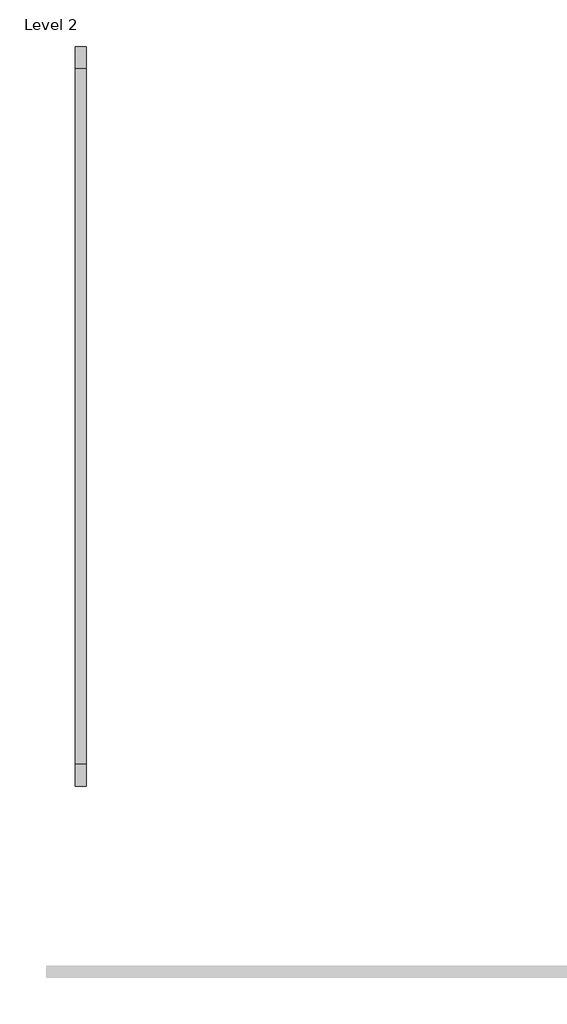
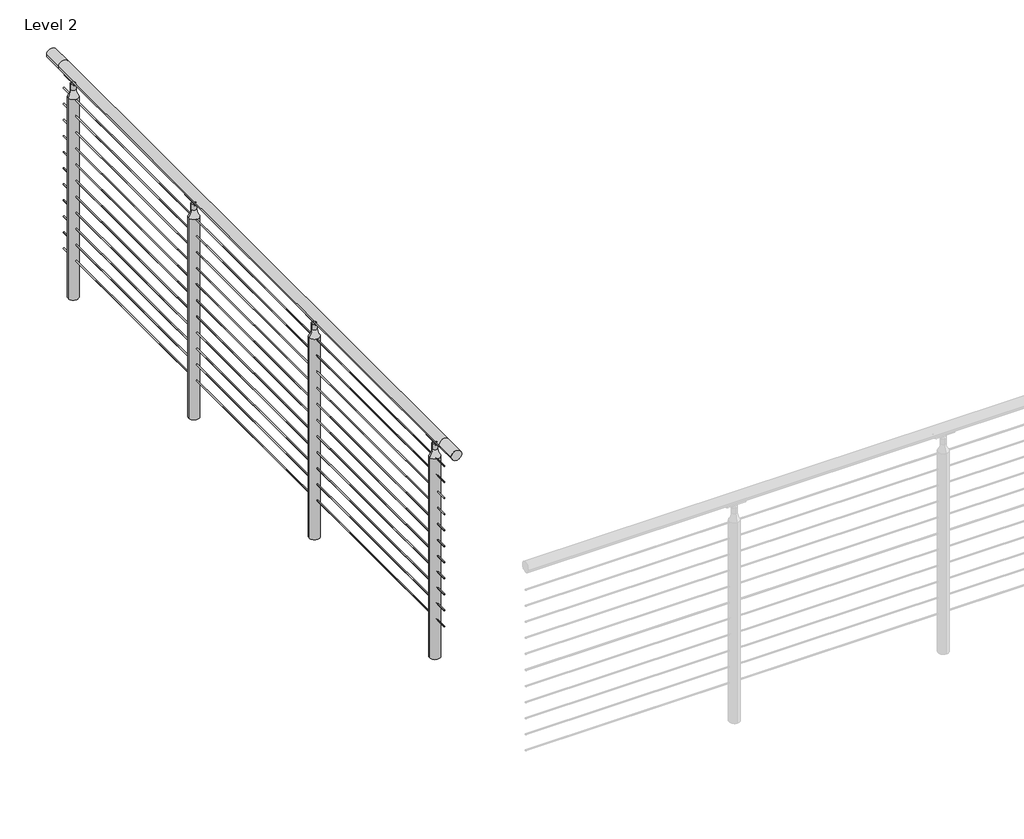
# One storey, part 16 of 21: 1 railing.
"""IFC4 building model written with IfcOpenShell, lengths in millimetres."""

from ifc_helpers import new_model, si_unit, point, frame, frame_2d, origin, place, context, project, spatial, polyline, circle_curve, ellipse_curve, trimmed, segment, composite_curve, outline, extrude, element, save
from ifc_brep_helpers import plane_surface, cylinder_surface, revolved_surface, advanced_brep

model = new_model("IFC4")

# Units and contexts
model_context = context("Model", 3, world=origin())
ifc_project = project(units=[si_unit("LENGTHUNIT", "METRE", prefix="MILLI")], contexts=[model_context])

# Site, building, storey
site = spatial("IfcSite", under=ifc_project)
building = spatial("IfcBuilding", under=site)
storey = spatial("IfcBuildingStorey", under=building, Name="Level 2", Elevation=3048.0)

# Railing
placement = place(None, origin())
element("IfcRailing", 1, ObjectType="VIVA-CIRCA-Cable-Weld Mount-Straight", at=placement, inside=storey, context=model_context, shape_type="SolidModel", body=[
    advanced_brep(
    [(41230.3572927, -51362.5040223, 4102.1), (41179.5572927, -51362.5040223, 4102.1), (41230.3572927, -51260.9040223, 4102.1), (41179.5572927, -51260.9040223, 4102.1), (41230.3572927, -48053.4426165, 4102.1), (41179.5572927, -48053.4426165, 4102.1), (41230.3572927, -47951.8426165, 4102.1), (41179.5572927, -47951.8426165, 4102.1)],
    [
        (0, 1, circle_curve(frame((41204.9572927, -51362.5040223, 4102.1), z_axis=(0.0, -1.0, 0.0), x_axis=(-1.0, 0.0, 0.0)), 25.4)),
        (1, 0, circle_curve(frame((41204.9572927, -51362.5040223, 4102.1), z_axis=(0.0, -1.0, 0.0), x_axis=(-1.0, 0.0, 0.0)), 25.4)),
        (0, 2),
        (2, 3, circle_curve(frame((41204.9572927, -51260.9040223, 4102.1), z_axis=(0.0, -1.0, 0.0), x_axis=(-1.0, 0.0, 0.0)), 25.4)),
        (3, 1),
        (3, 2, circle_curve(frame((41204.9572927, -51260.9040223, 4102.1), z_axis=(0.0, -1.0, 0.0), x_axis=(-1.0, 0.0, 0.0)), 25.4)),
        (2, 4),
        (4, 5, circle_curve(frame((41204.9572927, -48053.4426165, 4102.1), z_axis=(0.0, -1.0, 0.0), x_axis=(-1.0, 0.0, 0.0)), 25.4)),
        (5, 3),
        (5, 4, circle_curve(frame((41204.9572927, -48053.4426165, 4102.1), z_axis=(0.0, -1.0, 0.0), x_axis=(-1.0, 0.0, 0.0)), 25.4)),
        (6, 7, circle_curve(frame((41204.9572927, -47951.8426165, 4102.1), z_axis=(0.0, 1.0, 0.0), x_axis=(-1.0, 0.0, 0.0)), 25.4)),
        (7, 6, circle_curve(frame((41204.9572927, -47951.8426165, 4102.1), z_axis=(0.0, 1.0, 0.0), x_axis=(-1.0, 0.0, 0.0)), 25.4)),
        (4, 6),
        (7, 5),
    ],
    [
        plane_surface(frame((41204.9572927, -51362.5040223, 4127.5), z_axis=(0.0, -1.0, 0.0), x_axis=(0.0, 0.0, 1.0))),
        cylinder_surface(frame((41204.9572927, -51362.5040223, 4102.1), z_axis=(0.0, -1.0, 0.0), x_axis=(-1.0, 0.0, 0.0)), 25.4),
        cylinder_surface(frame((41204.9572927, -51260.9040223, 4102.1), z_axis=(0.0, -1.0, 0.0), x_axis=(-1.0, 0.0, 0.0)), 25.4),
        plane_surface(frame((41204.9572927, -47951.8426165, 4127.5), z_axis=(0.0, 1.0, 0.0), x_axis=(0.0, 0.0, 1.0))),
        cylinder_surface(frame((41204.9572927, -48053.4426165, 4102.1), z_axis=(0.0, -1.0, 0.0), x_axis=(-1.0, 0.0, 0.0)), 25.4),
    ],
    [
        (0, [[1, 2]]),
        (1, [[-1, 3, 4, 5]]),
        (1, [[-2, -5, 6, -3]]),
        (2, [[-4, 7, 8, 9]]),
        (2, [[-6, -9, 10, -7]]),
        (3, [[11, 12]]),
        (4, [[-8, 13, -12, 14]]),
        (4, [[-10, -14, -11, -13]]),
    ],
),
    extrude(outline(composite_curve([segment(trimmed(circle_curve(frame_2d((3985.4124, 41204.9572927)), 2.3876), [point((3985.4124, 41207.3448927))], [point((3985.4124, 41202.5696927))], False, "CARTESIAN"), True, "CONTINUOUS"), segment(trimmed(circle_curve(frame_2d((3985.4124, 41204.9572927)), 2.3876), [point((3985.4124, 41202.5696927))], [point((3985.4124, 41207.3448927))], False, "CARTESIAN"), True, "CONTINUOUS")], self_intersect=False)), frame((0.0, -51260.9040223, 0.0), z_axis=(0.0, 1.0, 0.0), x_axis=(0.0, 0.0, 1.0)), (0.0, 0.0, 1.0), 3207.4614057),
    extrude(outline(composite_curve([segment(trimmed(circle_curve(frame_2d((3902.8624, 41204.9572927)), 2.3876), [point((3902.8624, 41207.3448927))], [point((3902.8624, 41202.5696927))], False, "CARTESIAN"), True, "CONTINUOUS"), segment(trimmed(circle_curve(frame_2d((3902.8624, 41204.9572927)), 2.3876), [point((3902.8624, 41202.5696927))], [point((3902.8624, 41207.3448927))], False, "CARTESIAN"), True, "CONTINUOUS")], self_intersect=False)), frame((0.0, -51260.9040223, 0.0), z_axis=(0.0, 1.0, 0.0), x_axis=(0.0, 0.0, 1.0)), (0.0, 0.0, 1.0), 3207.4614057),
    extrude(outline(composite_curve([segment(trimmed(circle_curve(frame_2d((3820.3124, 41204.9572927)), 2.3876), [point((3820.3124, 41207.3448927))], [point((3820.3124, 41202.5696927))], False, "CARTESIAN"), True, "CONTINUOUS"), segment(trimmed(circle_curve(frame_2d((3820.3124, 41204.9572927)), 2.3876), [point((3820.3124, 41202.5696927))], [point((3820.3124, 41207.3448927))], False, "CARTESIAN"), True, "CONTINUOUS")], self_intersect=False)), frame((0.0, -51260.9040223, 0.0), z_axis=(0.0, 1.0, 0.0), x_axis=(0.0, 0.0, 1.0)), (0.0, 0.0, 1.0), 3207.4614057),
    extrude(outline(composite_curve([segment(trimmed(circle_curve(frame_2d((3737.7624, 41204.9572927)), 2.3876), [point((3737.7624, 41207.3448927))], [point((3737.7624, 41202.5696927))], False, "CARTESIAN"), True, "CONTINUOUS"), segment(trimmed(circle_curve(frame_2d((3737.7624, 41204.9572927)), 2.3876), [point((3737.7624, 41202.5696927))], [point((3737.7624, 41207.3448927))], False, "CARTESIAN"), True, "CONTINUOUS")], self_intersect=False)), frame((0.0, -51260.9040223, 0.0), z_axis=(0.0, 1.0, 0.0), x_axis=(0.0, 0.0, 1.0)), (0.0, 0.0, 1.0), 3207.4614057),
    extrude(outline(composite_curve([segment(trimmed(circle_curve(frame_2d((3655.2124, 41204.9572927)), 2.3876), [point((3655.2124, 41207.3448927))], [point((3655.2124, 41202.5696927))], False, "CARTESIAN"), True, "CONTINUOUS"), segment(trimmed(circle_curve(frame_2d((3655.2124, 41204.9572927)), 2.3876), [point((3655.2124, 41202.5696927))], [point((3655.2124, 41207.3448927))], False, "CARTESIAN"), True, "CONTINUOUS")], self_intersect=False)), frame((0.0, -51260.9040223, 0.0), z_axis=(0.0, 1.0, 0.0), x_axis=(0.0, 0.0, 1.0)), (0.0, 0.0, 1.0), 3207.4614057),
    extrude(outline(composite_curve([segment(trimmed(circle_curve(frame_2d((3572.6624, 41204.9572927)), 2.3876), [point((3572.6624, 41207.3448927))], [point((3572.6624, 41202.5696927))], False, "CARTESIAN"), True, "CONTINUOUS"), segment(trimmed(circle_curve(frame_2d((3572.6624, 41204.9572927)), 2.3876), [point((3572.6624, 41202.5696927))], [point((3572.6624, 41207.3448927))], False, "CARTESIAN"), True, "CONTINUOUS")], self_intersect=False)), frame((0.0, -51260.9040223, 0.0), z_axis=(0.0, 1.0, 0.0), x_axis=(0.0, 0.0, 1.0)), (0.0, 0.0, 1.0), 3207.4614057),
    extrude(outline(composite_curve([segment(trimmed(circle_curve(frame_2d((3490.1124, 41204.9572927)), 2.3876), [point((3490.1124, 41207.3448927))], [point((3490.1124, 41202.5696927))], False, "CARTESIAN"), True, "CONTINUOUS"), segment(trimmed(circle_curve(frame_2d((3490.1124, 41204.9572927)), 2.3876), [point((3490.1124, 41202.5696927))], [point((3490.1124, 41207.3448927))], False, "CARTESIAN"), True, "CONTINUOUS")], self_intersect=False)), frame((0.0, -51260.9040223, 0.0), z_axis=(0.0, 1.0, 0.0), x_axis=(0.0, 0.0, 1.0)), (0.0, 0.0, 1.0), 3207.4614057),
    extrude(outline(composite_curve([segment(trimmed(circle_curve(frame_2d((3407.5624, 41204.9572927)), 2.3876), [point((3407.5624, 41207.3448927))], [point((3407.5624, 41202.5696927))], False, "CARTESIAN"), True, "CONTINUOUS"), segment(trimmed(circle_curve(frame_2d((3407.5624, 41204.9572927)), 2.3876), [point((3407.5624, 41202.5696927))], [point((3407.5624, 41207.3448927))], False, "CARTESIAN"), True, "CONTINUOUS")], self_intersect=False)), frame((0.0, -51260.9040223, 0.0), z_axis=(0.0, 1.0, 0.0), x_axis=(0.0, 0.0, 1.0)), (0.0, 0.0, 1.0), 3207.4614057),
    extrude(outline(composite_curve([segment(trimmed(circle_curve(frame_2d((3325.0124, 41204.9572927)), 2.3876), [point((3325.0124, 41207.3448927))], [point((3325.0124, 41202.5696927))], False, "CARTESIAN"), True, "CONTINUOUS"), segment(trimmed(circle_curve(frame_2d((3325.0124, 41204.9572927)), 2.3876), [point((3325.0124, 41202.5696927))], [point((3325.0124, 41207.3448927))], False, "CARTESIAN"), True, "CONTINUOUS")], self_intersect=False)), frame((0.0, -51260.9040223, 0.0), z_axis=(0.0, 1.0, 0.0), x_axis=(0.0, 0.0, 1.0)), (0.0, 0.0, 1.0), 3207.4614057),
    extrude(outline(composite_curve([segment(trimmed(circle_curve(frame_2d((3242.4624, 41204.9572927)), 2.3876), [point((3242.4624, 41207.3448927))], [point((3242.4624, 41202.5696927))], False, "CARTESIAN"), True, "CONTINUOUS"), segment(trimmed(circle_curve(frame_2d((3242.4624, 41204.9572927)), 2.3876), [point((3242.4624, 41202.5696927))], [point((3242.4624, 41207.3448927))], False, "CARTESIAN"), True, "CONTINUOUS")], self_intersect=False)), frame((0.0, -51260.9040223, 0.0), z_axis=(0.0, 1.0, 0.0), x_axis=(0.0, 0.0, 1.0)), (0.0, 0.0, 1.0), 3207.4614057),
    extrude(outline(composite_curve([segment(trimmed(circle_curve(frame_2d((3159.9124, 41204.9572927)), 2.3876), [point((3159.9124, 41207.3448927))], [point((3159.9124, 41202.5696927))], False, "CARTESIAN"), True, "CONTINUOUS"), segment(trimmed(circle_curve(frame_2d((3159.9124, 41204.9572927)), 2.3876), [point((3159.9124, 41202.5696927))], [point((3159.9124, 41207.3448927))], False, "CARTESIAN"), True, "CONTINUOUS")], self_intersect=False)), frame((0.0, -51260.9040223, 0.0), z_axis=(0.0, 1.0, 0.0), x_axis=(0.0, 0.0, 1.0)), (0.0, 0.0, 1.0), 3207.4614057),
    extrude(outline(composite_curve([segment(trimmed(circle_curve(frame_2d((4078.7923545, 41190.9426605)), 2.9558141), [point((4081.3106679, 41192.4902182))], [point((4076.9214354, 41188.6543207))], False, "CARTESIAN"), True, "CONTINUOUS"), segment(trimmed(circle_curve(frame_2d((4104.1881188, 41204.920558)), 31.75), [point((4076.9214354, 41188.6543207))], [point((4076.3406769, 41220.171213))], False, "CARTESIAN"), True, "CONTINUOUS"), segment(trimmed(circle_curve(frame_2d((4078.7132623, 41218.6939079)), 2.7949225), [point((4076.3406769, 41220.171213))], [point((4081.2157471, 41217.4492548))], False, "CARTESIAN"), True, "CONTINUOUS"), segment(trimmed(circle_curve(frame_2d((4103.4254922, 41205.0540211)), 25.4345159), [point((4081.2157471, 41217.4492548))], [point((4081.3106679, 41192.4902182))], True, "CARTESIAN"), True, "CONTINUOUS")], self_intersect=False)), frame((0.0, -48178.0138444, 0.0), z_axis=(0.0, 1.0, 0.0), x_axis=(0.0, 0.0, 1.0)), (0.0, 0.0, 1.0), 90.4748),
    advanced_brep(
    [(41207.4972927, -48105.7085295, 4072.6506908), (41207.4972927, -48159.8443593, 4072.6506908), (41207.4972927, -48145.4764444, 4058.282776), (41207.4972927, -48120.0764444, 4058.282776), (41202.4172927, -48105.7085295, 4072.6506908), (41202.4172927, -48120.0764444, 4058.282776), (41202.4172927, -48145.4764444, 4058.282776), (41202.4172927, -48159.8443593, 4072.6506908)],
    [
        (0, 1),
        (1, 2, circle_curve(frame((41207.4972927, -48159.8443593, 4058.282776), z_axis=(-1.0, 0.0, 0.0), x_axis=(0.0, -1.0, 0.0)), 14.3679149)),
        (2, 3, circle_curve(frame((41207.4972927, -48132.7764444, 4058.282776), z_axis=(1.0, 0.0, 0.0), x_axis=(0.0, -1.0, 0.0)), 12.7)),
        (3, 0, circle_curve(frame((41207.4972927, -48105.7085295, 4058.282776), z_axis=(-1.0, 0.0, 0.0), x_axis=(0.0, -1.0, 0.0)), 14.3679149)),
        (4, 5, circle_curve(frame((41202.4172927, -48105.7085295, 4058.282776), z_axis=(1.0, 0.0, 0.0), x_axis=(0.0, -1.0, 0.0)), 14.3679149)),
        (5, 6, circle_curve(frame((41202.4172927, -48132.7764444, 4058.282776), z_axis=(-1.0, 0.0, 0.0), x_axis=(0.0, -1.0, 0.0)), 12.7)),
        (6, 7, circle_curve(frame((41202.4172927, -48159.8443593, 4058.282776), z_axis=(1.0, 0.0, 0.0), x_axis=(0.0, -1.0, 0.0)), 14.3679149)),
        (7, 4),
        (3, 5),
        (4, 0),
        (2, 6),
        (1, 7),
    ],
    [
        plane_surface(frame((41207.4972927, -48120.0764444, 4058.282776), z_axis=(1.0, 0.0, 0.0), x_axis=(0.0, 0.0, -1.0))),
        plane_surface(frame((41202.4172927, -48120.0764444, 4058.282776), z_axis=(-1.0, 0.0, 0.0), x_axis=(0.0, 0.0, 1.0))),
        revolved_surface(polyline([(41202.4172927, -48120.0764444, 4058.282776), (41207.4972927, -48120.0764444, 4058.282776)]), (41202.4172927, -48105.7085295, 4058.282776), (-1.0, 0.0, 0.0)),
        cylinder_surface(frame((41202.4172927, -48132.7764444, 4058.282776), z_axis=(1.0, 0.0, 0.0), x_axis=(0.0, -1.0, 0.0)), 12.7),
        revolved_surface(polyline([(41202.4172927, -48174.2122742, 4058.282776), (41207.4972927, -48174.2122742, 4058.282776)]), (41202.4172927, -48159.8443593, 4058.282776), (-1.0, 0.0, 0.0)),
        plane_surface(frame((41207.4972927, -48159.8443593, 4072.6506908), z_axis=(0.0, 0.0, 1.0), x_axis=(-1.0, 0.0, 0.0))),
    ],
    [
        (0, [[1, 2, 3, 4]]),
        (1, [[5, 6, 7, 8]]),
        (2, [[9, -5, 10, -4]]),
        (3, [[11, -6, -9, -3]]),
        (4, [[12, -7, -11, -2]]),
        (5, [[-10, -8, -12, -1]]),
    ],
),
    advanced_brep(
    [(41179.5578949, -48132.7764444, 3989.1347854), (41179.5578949, -48132.7764444, 2959.1), (41230.3566905, -48132.7764444, 2959.1), (41230.3566905, -48132.7764444, 3989.1347854), (41192.2193241, -48132.7764444, 4027.3486202), (41217.6952612, -48132.7764444, 4027.3486202), (41192.2193241, -48132.7764444, 4056.5779599), (41217.6952612, -48132.7764444, 4056.5779599), (41204.9572927, -48132.7764444, 4063.238668), (41204.9572927, -48132.7764444, 2959.1)],
    [
        (0, 1),
        (1, 2, circle_curve(frame((41204.9572927, -48132.7764444, 2959.1), z_axis=(0.0, 0.0, 1.0), x_axis=(1.0, 0.0, 0.0)), 25.3993978)),
        (2, 3),
        (3, 0, circle_curve(frame((41204.9572927, -48132.7764444, 3989.1347854), z_axis=(0.0, 0.0, -1.0), x_axis=(1.0, 0.0, 0.0)), 25.3993978)),
        (2, 1, circle_curve(frame((41204.9572927, -48132.7764444, 2959.1), z_axis=(0.0, 0.0, 1.0), x_axis=(1.0, 0.0, 0.0)), 25.3993978)),
        (0, 3, circle_curve(frame((41204.9572927, -48132.7764444, 3989.1347854), z_axis=(0.0, 0.0, -1.0), x_axis=(1.0, 0.0, 0.0)), 25.3993978)),
        (4, 0, circle_curve(frame((41128.2214558, -48132.7764444, 4027.3486202), z_axis=(0.0, 1.0, 0.0), x_axis=(-1.0, 0.0, 0.0)), 63.9978683)),
        (3, 5, circle_curve(frame((41281.6931295, -48132.7764444, 4027.3486202), z_axis=(0.0, 1.0, 0.0), x_axis=(1.0, 0.0, 0.0)), 63.9978683)),
        (5, 4, circle_curve(frame((41204.9572927, -48132.7764444, 4027.3486202), z_axis=(0.0, 0.0, -1.0), x_axis=(1.0, 0.0, 0.0)), 12.7379685)),
        (4, 5, circle_curve(frame((41204.9572927, -48132.7764444, 4027.3486202), z_axis=(0.0, 0.0, -1.0), x_axis=(1.0, 0.0, 0.0)), 12.7379685)),
        (6, 4),
        (5, 7),
        (7, 6, circle_curve(frame((41204.9572927, -48132.7764444, 4056.5779599), z_axis=(0.0, 0.0, -1.0), x_axis=(1.0, 0.0, 0.0)), 12.7379685)),
        (6, 7, circle_curve(frame((41204.9572927, -48132.7764444, 4056.5779599), z_axis=(0.0, 0.0, -1.0), x_axis=(1.0, 0.0, 0.0)), 12.7379685)),
        (8, 6, circle_curve(frame((41204.9572927, -48132.7764444, 4047.7282394), z_axis=(0.0, -1.0, 0.0), x_axis=(-1.0, 0.0, 0.0)), 15.5104286)),
        (7, 8, circle_curve(frame((41204.9572927, -48132.7764444, 4047.7282394), z_axis=(0.0, -1.0, 0.0), x_axis=(1.0, 0.0, 0.0)), 15.5104286)),
        (1, 9),
        (9, 2),
    ],
    [
        cylinder_surface(frame((41204.9572927, -48132.7764444, 4152.9), z_axis=(0.0, 0.0, 1.0), x_axis=(1.0, 0.0, 0.0)), 25.3993978),
        revolved_surface(trimmed(ellipse_curve(frame((41281.6931295, -48132.7764444, 4027.3486202), z_axis=(0.0, 1.0, 0.0), x_axis=(1.0, 0.0, 0.0)), 63.9978683, 63.9978683), [point((41230.3566905, -48132.7764444, 3989.1347854))], [point((41217.6952612, -48132.7764444, 4027.3486202))], True, "CARTESIAN"), (41204.9572927, -48132.7764444, 4152.9), (0.0, 0.0, 1.0)),
        cylinder_surface(frame((41204.9572927, -48132.7764444, 4152.9), z_axis=(0.0, 0.0, 1.0), x_axis=(1.0, 0.0, 0.0)), 12.7379685),
        revolved_surface(trimmed(ellipse_curve(frame((41204.9572927, -48132.7764444, 4047.7282394), z_axis=(0.0, -1.0, 0.0), x_axis=(1.0, 0.0, 0.0)), 15.5104286, 15.5104286), [point((41217.6952612, -48132.7764444, 4056.5779599))], [point((41204.9572927, -48132.7764444, 4063.238668))], True, "CARTESIAN"), (41204.9572927, -48132.7764444, 4152.9), (0.0, 0.0, 1.0)),
        plane_surface(frame((41204.9572927, -48132.7764444, 2959.1), z_axis=(0.0, 0.0, -1.0), x_axis=(1.0, 0.0, 0.0))),
    ],
    [
        (0, [[1, 2, 3, 4]]),
        (0, [[-3, 5, -1, 6]]),
        (1, [[7, -4, 8, 9]]),
        (1, [[-8, -6, -7, 10]]),
        (2, [[11, -9, 12, 13]]),
        (2, [[-12, -10, -11, 14]]),
        (3, [[15, -13, 16]]),
        (3, [[-16, -14, -15]]),
        (4, [[17, 18, -2]]),
        (4, [[-18, -17, -5]]),
    ],
),
    extrude(outline(composite_curve([segment(trimmed(circle_curve(frame_2d((4078.7923545, 41190.9426605)), 2.9558141), [point((4081.3106679, 41192.4902182))], [point((4076.9214354, 41188.6543207))], False, "CARTESIAN"), True, "CONTINUOUS"), segment(trimmed(circle_curve(frame_2d((4104.1881188, 41204.920558)), 31.75), [point((4076.9214354, 41188.6543207))], [point((4076.3406769, 41220.171213))], False, "CARTESIAN"), True, "CONTINUOUS"), segment(trimmed(circle_curve(frame_2d((4078.7132623, 41218.6939079)), 2.7949225), [point((4076.3406769, 41220.171213))], [point((4081.2157471, 41217.4492548))], False, "CARTESIAN"), True, "CONTINUOUS"), segment(trimmed(circle_curve(frame_2d((4103.4254922, 41205.0540211)), 25.4345159), [point((4081.2157471, 41217.4492548))], [point((4081.3106679, 41192.4902182))], True, "CARTESIAN"), True, "CONTINUOUS")], self_intersect=False)), frame((0.0, -49194.0138444, 0.0), z_axis=(0.0, 1.0, 0.0), x_axis=(0.0, 0.0, 1.0)), (0.0, 0.0, 1.0), 90.4748),
    advanced_brep(
    [(41207.4972927, -49121.7085295, 4072.6506908), (41207.4972927, -49175.8443593, 4072.6506908), (41207.4972927, -49161.4764444, 4058.282776), (41207.4972927, -49136.0764444, 4058.282776), (41202.4172927, -49121.7085295, 4072.6506908), (41202.4172927, -49136.0764444, 4058.282776), (41202.4172927, -49161.4764444, 4058.282776), (41202.4172927, -49175.8443593, 4072.6506908)],
    [
        (0, 1),
        (1, 2, circle_curve(frame((41207.4972927, -49175.8443593, 4058.282776), z_axis=(-1.0, 0.0, 0.0), x_axis=(0.0, -1.0, 0.0)), 14.3679149)),
        (2, 3, circle_curve(frame((41207.4972927, -49148.7764444, 4058.282776), z_axis=(1.0, 0.0, 0.0), x_axis=(0.0, -1.0, 0.0)), 12.7)),
        (3, 0, circle_curve(frame((41207.4972927, -49121.7085295, 4058.282776), z_axis=(-1.0, 0.0, 0.0), x_axis=(0.0, -1.0, 0.0)), 14.3679149)),
        (4, 5, circle_curve(frame((41202.4172927, -49121.7085295, 4058.282776), z_axis=(1.0, 0.0, 0.0), x_axis=(0.0, -1.0, 0.0)), 14.3679149)),
        (5, 6, circle_curve(frame((41202.4172927, -49148.7764444, 4058.282776), z_axis=(-1.0, 0.0, 0.0), x_axis=(0.0, -1.0, 0.0)), 12.7)),
        (6, 7, circle_curve(frame((41202.4172927, -49175.8443593, 4058.282776), z_axis=(1.0, 0.0, 0.0), x_axis=(0.0, -1.0, 0.0)), 14.3679149)),
        (7, 4),
        (3, 5),
        (4, 0),
        (2, 6),
        (1, 7),
    ],
    [
        plane_surface(frame((41207.4972927, -49136.0764444, 4058.282776), z_axis=(1.0, 0.0, 0.0), x_axis=(0.0, 0.0, -1.0))),
        plane_surface(frame((41202.4172927, -49136.0764444, 4058.282776), z_axis=(-1.0, 0.0, 0.0), x_axis=(0.0, 0.0, 1.0))),
        revolved_surface(polyline([(41202.4172927, -49136.0764444, 4058.282776), (41207.4972927, -49136.0764444, 4058.282776)]), (41202.4172927, -49121.7085295, 4058.282776), (-1.0, 0.0, 0.0)),
        cylinder_surface(frame((41202.4172927, -49148.7764444, 4058.282776), z_axis=(1.0, 0.0, 0.0), x_axis=(0.0, -1.0, 0.0)), 12.7),
        revolved_surface(polyline([(41202.4172927, -49190.2122742, 4058.282776), (41207.4972927, -49190.2122742, 4058.282776)]), (41202.4172927, -49175.8443593, 4058.282776), (-1.0, 0.0, 0.0)),
        plane_surface(frame((41207.4972927, -49175.8443593, 4072.6506908), z_axis=(0.0, 0.0, 1.0), x_axis=(-1.0, 0.0, 0.0))),
    ],
    [
        (0, [[1, 2, 3, 4]]),
        (1, [[5, 6, 7, 8]]),
        (2, [[9, -5, 10, -4]]),
        (3, [[11, -6, -9, -3]]),
        (4, [[12, -7, -11, -2]]),
        (5, [[-10, -8, -12, -1]]),
    ],
),
    advanced_brep(
    [(41179.5578949, -49148.7764444, 3989.1347854), (41179.5578949, -49148.7764444, 2959.1), (41230.3566905, -49148.7764444, 2959.1), (41230.3566905, -49148.7764444, 3989.1347854), (41192.2193241, -49148.7764444, 4027.3486202), (41217.6952612, -49148.7764444, 4027.3486202), (41192.2193241, -49148.7764444, 4056.5779599), (41217.6952612, -49148.7764444, 4056.5779599), (41204.9572927, -49148.7764444, 4063.238668), (41204.9572927, -49148.7764444, 2959.1)],
    [
        (0, 1),
        (1, 2, circle_curve(frame((41204.9572927, -49148.7764444, 2959.1), z_axis=(0.0, 0.0, 1.0), x_axis=(1.0, 0.0, 0.0)), 25.3993978)),
        (2, 3),
        (3, 0, circle_curve(frame((41204.9572927, -49148.7764444, 3989.1347854), z_axis=(0.0, 0.0, -1.0), x_axis=(1.0, 0.0, 0.0)), 25.3993978)),
        (2, 1, circle_curve(frame((41204.9572927, -49148.7764444, 2959.1), z_axis=(0.0, 0.0, 1.0), x_axis=(1.0, 0.0, 0.0)), 25.3993978)),
        (0, 3, circle_curve(frame((41204.9572927, -49148.7764444, 3989.1347854), z_axis=(0.0, 0.0, -1.0), x_axis=(1.0, 0.0, 0.0)), 25.3993978)),
        (4, 0, circle_curve(frame((41128.2214558, -49148.7764444, 4027.3486202), z_axis=(0.0, 1.0, 0.0), x_axis=(-1.0, 0.0, 0.0)), 63.9978683)),
        (3, 5, circle_curve(frame((41281.6931295, -49148.7764444, 4027.3486202), z_axis=(0.0, 1.0, 0.0), x_axis=(1.0, 0.0, 0.0)), 63.9978683)),
        (5, 4, circle_curve(frame((41204.9572927, -49148.7764444, 4027.3486202), z_axis=(0.0, 0.0, -1.0), x_axis=(1.0, 0.0, 0.0)), 12.7379685)),
        (4, 5, circle_curve(frame((41204.9572927, -49148.7764444, 4027.3486202), z_axis=(0.0, 0.0, -1.0), x_axis=(1.0, 0.0, 0.0)), 12.7379685)),
        (6, 4),
        (5, 7),
        (7, 6, circle_curve(frame((41204.9572927, -49148.7764444, 4056.5779599), z_axis=(0.0, 0.0, -1.0), x_axis=(1.0, 0.0, 0.0)), 12.7379685)),
        (6, 7, circle_curve(frame((41204.9572927, -49148.7764444, 4056.5779599), z_axis=(0.0, 0.0, -1.0), x_axis=(1.0, 0.0, 0.0)), 12.7379685)),
        (8, 6, circle_curve(frame((41204.9572927, -49148.7764444, 4047.7282394), z_axis=(0.0, -1.0, 0.0), x_axis=(-1.0, 0.0, 0.0)), 15.5104286)),
        (7, 8, circle_curve(frame((41204.9572927, -49148.7764444, 4047.7282394), z_axis=(0.0, -1.0, 0.0), x_axis=(1.0, 0.0, 0.0)), 15.5104286)),
        (1, 9),
        (9, 2),
    ],
    [
        cylinder_surface(frame((41204.9572927, -49148.7764444, 4152.9), z_axis=(0.0, 0.0, 1.0), x_axis=(1.0, 0.0, 0.0)), 25.3993978),
        revolved_surface(trimmed(ellipse_curve(frame((41281.6931295, -49148.7764444, 4027.3486202), z_axis=(0.0, 1.0, 0.0), x_axis=(1.0, 0.0, 0.0)), 63.9978683, 63.9978683), [point((41230.3566905, -49148.7764444, 3989.1347854))], [point((41217.6952612, -49148.7764444, 4027.3486202))], True, "CARTESIAN"), (41204.9572927, -49148.7764444, 4152.9), (0.0, 0.0, 1.0)),
        cylinder_surface(frame((41204.9572927, -49148.7764444, 4152.9), z_axis=(0.0, 0.0, 1.0), x_axis=(1.0, 0.0, 0.0)), 12.7379685),
        revolved_surface(trimmed(ellipse_curve(frame((41204.9572927, -49148.7764444, 4047.7282394), z_axis=(0.0, -1.0, 0.0), x_axis=(1.0, 0.0, 0.0)), 15.5104286, 15.5104286), [point((41217.6952612, -49148.7764444, 4056.5779599))], [point((41204.9572927, -49148.7764444, 4063.238668))], True, "CARTESIAN"), (41204.9572927, -49148.7764444, 4152.9), (0.0, 0.0, 1.0)),
        plane_surface(frame((41204.9572927, -49148.7764444, 2959.1), z_axis=(0.0, 0.0, -1.0), x_axis=(1.0, 0.0, 0.0))),
    ],
    [
        (0, [[1, 2, 3, 4]]),
        (0, [[-3, 5, -1, 6]]),
        (1, [[7, -4, 8, 9]]),
        (1, [[-8, -6, -7, 10]]),
        (2, [[11, -9, 12, 13]]),
        (2, [[-12, -10, -11, 14]]),
        (3, [[15, -13, 16]]),
        (3, [[-16, -14, -15]]),
        (4, [[17, 18, -2]]),
        (4, [[-18, -17, -5]]),
    ],
),
    extrude(outline(composite_curve([segment(trimmed(circle_curve(frame_2d((4078.7923545, 41190.9426605)), 2.9558141), [point((4081.3106679, 41192.4902182))], [point((4076.9214354, 41188.6543207))], False, "CARTESIAN"), True, "CONTINUOUS"), segment(trimmed(circle_curve(frame_2d((4104.1881188, 41204.920558)), 31.75), [point((4076.9214354, 41188.6543207))], [point((4076.3406769, 41220.171213))], False, "CARTESIAN"), True, "CONTINUOUS"), segment(trimmed(circle_curve(frame_2d((4078.7132623, 41218.6939079)), 2.7949225), [point((4076.3406769, 41220.171213))], [point((4081.2157471, 41217.4492548))], False, "CARTESIAN"), True, "CONTINUOUS"), segment(trimmed(circle_curve(frame_2d((4103.4254922, 41205.0540211)), 25.4345159), [point((4081.2157471, 41217.4492548))], [point((4081.3106679, 41192.4902182))], True, "CARTESIAN"), True, "CONTINUOUS")], self_intersect=False)), frame((0.0, -50210.0138444, 0.0), z_axis=(0.0, 1.0, 0.0), x_axis=(0.0, 0.0, 1.0)), (0.0, 0.0, 1.0), 90.4748),
    advanced_brep(
    [(41207.4972927, -50137.7085295, 4072.6506908), (41207.4972927, -50191.8443593, 4072.6506908), (41207.4972927, -50177.4764444, 4058.282776), (41207.4972927, -50152.0764444, 4058.282776), (41202.4172927, -50137.7085295, 4072.6506908), (41202.4172927, -50152.0764444, 4058.282776), (41202.4172927, -50177.4764444, 4058.282776), (41202.4172927, -50191.8443593, 4072.6506908)],
    [
        (0, 1),
        (1, 2, circle_curve(frame((41207.4972927, -50191.8443593, 4058.282776), z_axis=(-1.0, 0.0, 0.0), x_axis=(0.0, -1.0, 0.0)), 14.3679149)),
        (2, 3, circle_curve(frame((41207.4972927, -50164.7764444, 4058.282776), z_axis=(1.0, 0.0, 0.0), x_axis=(0.0, -1.0, 0.0)), 12.7)),
        (3, 0, circle_curve(frame((41207.4972927, -50137.7085295, 4058.282776), z_axis=(-1.0, 0.0, 0.0), x_axis=(0.0, -1.0, 0.0)), 14.3679149)),
        (4, 5, circle_curve(frame((41202.4172927, -50137.7085295, 4058.282776), z_axis=(1.0, 0.0, 0.0), x_axis=(0.0, -1.0, 0.0)), 14.3679149)),
        (5, 6, circle_curve(frame((41202.4172927, -50164.7764444, 4058.282776), z_axis=(-1.0, 0.0, 0.0), x_axis=(0.0, -1.0, 0.0)), 12.7)),
        (6, 7, circle_curve(frame((41202.4172927, -50191.8443593, 4058.282776), z_axis=(1.0, 0.0, 0.0), x_axis=(0.0, -1.0, 0.0)), 14.3679149)),
        (7, 4),
        (3, 5),
        (4, 0),
        (2, 6),
        (1, 7),
    ],
    [
        plane_surface(frame((41207.4972927, -50152.0764444, 4058.282776), z_axis=(1.0, 0.0, 0.0), x_axis=(0.0, 0.0, -1.0))),
        plane_surface(frame((41202.4172927, -50152.0764444, 4058.282776), z_axis=(-1.0, 0.0, 0.0), x_axis=(0.0, 0.0, 1.0))),
        revolved_surface(polyline([(41202.4172927, -50152.0764444, 4058.282776), (41207.4972927, -50152.0764444, 4058.282776)]), (41202.4172927, -50137.7085295, 4058.282776), (-1.0, 0.0, 0.0)),
        cylinder_surface(frame((41202.4172927, -50164.7764444, 4058.282776), z_axis=(1.0, 0.0, 0.0), x_axis=(0.0, -1.0, 0.0)), 12.7),
        revolved_surface(polyline([(41202.4172927, -50206.2122742, 4058.282776), (41207.4972927, -50206.2122742, 4058.282776)]), (41202.4172927, -50191.8443593, 4058.282776), (-1.0, 0.0, 0.0)),
        plane_surface(frame((41207.4972927, -50191.8443593, 4072.6506908), z_axis=(0.0, 0.0, 1.0), x_axis=(-1.0, 0.0, 0.0))),
    ],
    [
        (0, [[1, 2, 3, 4]]),
        (1, [[5, 6, 7, 8]]),
        (2, [[9, -5, 10, -4]]),
        (3, [[11, -6, -9, -3]]),
        (4, [[12, -7, -11, -2]]),
        (5, [[-10, -8, -12, -1]]),
    ],
),
    advanced_brep(
    [(41179.5578949, -50164.7764444, 3989.1347854), (41179.5578949, -50164.7764444, 2959.1), (41230.3566905, -50164.7764444, 2959.1), (41230.3566905, -50164.7764444, 3989.1347854), (41192.2193241, -50164.7764444, 4027.3486202), (41217.6952612, -50164.7764444, 4027.3486202), (41192.2193241, -50164.7764444, 4056.5779599), (41217.6952612, -50164.7764444, 4056.5779599), (41204.9572927, -50164.7764444, 4063.238668), (41204.9572927, -50164.7764444, 2959.1)],
    [
        (0, 1),
        (1, 2, circle_curve(frame((41204.9572927, -50164.7764444, 2959.1), z_axis=(0.0, 0.0, 1.0), x_axis=(1.0, 0.0, 0.0)), 25.3993978)),
        (2, 3),
        (3, 0, circle_curve(frame((41204.9572927, -50164.7764444, 3989.1347854), z_axis=(0.0, 0.0, -1.0), x_axis=(1.0, 0.0, 0.0)), 25.3993978)),
        (2, 1, circle_curve(frame((41204.9572927, -50164.7764444, 2959.1), z_axis=(0.0, 0.0, 1.0), x_axis=(1.0, 0.0, 0.0)), 25.3993978)),
        (0, 3, circle_curve(frame((41204.9572927, -50164.7764444, 3989.1347854), z_axis=(0.0, 0.0, -1.0), x_axis=(1.0, 0.0, 0.0)), 25.3993978)),
        (4, 0, circle_curve(frame((41128.2214558, -50164.7764444, 4027.3486202), z_axis=(0.0, 1.0, 0.0), x_axis=(-1.0, 0.0, 0.0)), 63.9978683)),
        (3, 5, circle_curve(frame((41281.6931295, -50164.7764444, 4027.3486202), z_axis=(0.0, 1.0, 0.0), x_axis=(1.0, 0.0, 0.0)), 63.9978683)),
        (5, 4, circle_curve(frame((41204.9572927, -50164.7764444, 4027.3486202), z_axis=(0.0, 0.0, -1.0), x_axis=(1.0, 0.0, 0.0)), 12.7379685)),
        (4, 5, circle_curve(frame((41204.9572927, -50164.7764444, 4027.3486202), z_axis=(0.0, 0.0, -1.0), x_axis=(1.0, 0.0, 0.0)), 12.7379685)),
        (6, 4),
        (5, 7),
        (7, 6, circle_curve(frame((41204.9572927, -50164.7764444, 4056.5779599), z_axis=(0.0, 0.0, -1.0), x_axis=(1.0, 0.0, 0.0)), 12.7379685)),
        (6, 7, circle_curve(frame((41204.9572927, -50164.7764444, 4056.5779599), z_axis=(0.0, 0.0, -1.0), x_axis=(1.0, 0.0, 0.0)), 12.7379685)),
        (8, 6, circle_curve(frame((41204.9572927, -50164.7764444, 4047.7282394), z_axis=(0.0, -1.0, 0.0), x_axis=(-1.0, 0.0, 0.0)), 15.5104286)),
        (7, 8, circle_curve(frame((41204.9572927, -50164.7764444, 4047.7282394), z_axis=(0.0, -1.0, 0.0), x_axis=(1.0, 0.0, 0.0)), 15.5104286)),
        (1, 9),
        (9, 2),
    ],
    [
        cylinder_surface(frame((41204.9572927, -50164.7764444, 4152.9), z_axis=(0.0, 0.0, 1.0), x_axis=(1.0, 0.0, 0.0)), 25.3993978),
        revolved_surface(trimmed(ellipse_curve(frame((41281.6931295, -50164.7764444, 4027.3486202), z_axis=(0.0, 1.0, 0.0), x_axis=(1.0, 0.0, 0.0)), 63.9978683, 63.9978683), [point((41230.3566905, -50164.7764444, 3989.1347854))], [point((41217.6952612, -50164.7764444, 4027.3486202))], True, "CARTESIAN"), (41204.9572927, -50164.7764444, 4152.9), (0.0, 0.0, 1.0)),
        cylinder_surface(frame((41204.9572927, -50164.7764444, 4152.9), z_axis=(0.0, 0.0, 1.0), x_axis=(1.0, 0.0, 0.0)), 12.7379685),
        revolved_surface(trimmed(ellipse_curve(frame((41204.9572927, -50164.7764444, 4047.7282394), z_axis=(0.0, -1.0, 0.0), x_axis=(1.0, 0.0, 0.0)), 15.5104286, 15.5104286), [point((41217.6952612, -50164.7764444, 4056.5779599))], [point((41204.9572927, -50164.7764444, 4063.238668))], True, "CARTESIAN"), (41204.9572927, -50164.7764444, 4152.9), (0.0, 0.0, 1.0)),
        plane_surface(frame((41204.9572927, -50164.7764444, 2959.1), z_axis=(0.0, 0.0, -1.0), x_axis=(1.0, 0.0, 0.0))),
    ],
    [
        (0, [[1, 2, 3, 4]]),
        (0, [[-3, 5, -1, 6]]),
        (1, [[7, -4, 8, 9]]),
        (1, [[-8, -6, -7, 10]]),
        (2, [[11, -9, 12, 13]]),
        (2, [[-12, -10, -11, 14]]),
        (3, [[15, -13, 16]]),
        (3, [[-16, -14, -15]]),
        (4, [[17, 18, -2]]),
        (4, [[-18, -17, -5]]),
    ],
),
    extrude(outline(composite_curve([segment(trimmed(circle_curve(frame_2d((4078.7923545, 41190.9426605)), 2.9558141), [point((4081.3106679, 41192.4902182))], [point((4076.9214354, 41188.6543207))], False, "CARTESIAN"), True, "CONTINUOUS"), segment(trimmed(circle_curve(frame_2d((4104.1881188, 41204.920558)), 31.75), [point((4076.9214354, 41188.6543207))], [point((4076.3406769, 41220.171213))], False, "CARTESIAN"), True, "CONTINUOUS"), segment(trimmed(circle_curve(frame_2d((4078.7132623, 41218.6939079)), 2.7949225), [point((4076.3406769, 41220.171213))], [point((4081.2157471, 41217.4492548))], False, "CARTESIAN"), True, "CONTINUOUS"), segment(trimmed(circle_curve(frame_2d((4103.4254922, 41205.0540211)), 25.4345159), [point((4081.2157471, 41217.4492548))], [point((4081.3106679, 41192.4902182))], True, "CARTESIAN"), True, "CONTINUOUS")], self_intersect=False)), frame((0.0, -51226.0138444, 0.0), z_axis=(0.0, 1.0, 0.0), x_axis=(0.0, 0.0, 1.0)), (0.0, 0.0, 1.0), 90.4748),
    advanced_brep(
    [(41207.4972927, -51153.7085295, 4072.6506908), (41207.4972927, -51207.8443593, 4072.6506908), (41207.4972927, -51193.4764444, 4058.282776), (41207.4972927, -51168.0764444, 4058.282776), (41202.4172927, -51153.7085295, 4072.6506908), (41202.4172927, -51168.0764444, 4058.282776), (41202.4172927, -51193.4764444, 4058.282776), (41202.4172927, -51207.8443593, 4072.6506908)],
    [
        (0, 1),
        (1, 2, circle_curve(frame((41207.4972927, -51207.8443593, 4058.282776), z_axis=(-1.0, 0.0, 0.0), x_axis=(0.0, -1.0, 0.0)), 14.3679149)),
        (2, 3, circle_curve(frame((41207.4972927, -51180.7764444, 4058.282776), z_axis=(1.0, 0.0, 0.0), x_axis=(0.0, -1.0, 0.0)), 12.7)),
        (3, 0, circle_curve(frame((41207.4972927, -51153.7085295, 4058.282776), z_axis=(-1.0, 0.0, 0.0), x_axis=(0.0, -1.0, 0.0)), 14.3679149)),
        (4, 5, circle_curve(frame((41202.4172927, -51153.7085295, 4058.282776), z_axis=(1.0, 0.0, 0.0), x_axis=(0.0, -1.0, 0.0)), 14.3679149)),
        (5, 6, circle_curve(frame((41202.4172927, -51180.7764444, 4058.282776), z_axis=(-1.0, 0.0, 0.0), x_axis=(0.0, -1.0, 0.0)), 12.7)),
        (6, 7, circle_curve(frame((41202.4172927, -51207.8443593, 4058.282776), z_axis=(1.0, 0.0, 0.0), x_axis=(0.0, -1.0, 0.0)), 14.3679149)),
        (7, 4),
        (3, 5),
        (4, 0),
        (2, 6),
        (1, 7),
    ],
    [
        plane_surface(frame((41207.4972927, -51168.0764444, 4058.282776), z_axis=(1.0, 0.0, 0.0), x_axis=(0.0, 0.0, -1.0))),
        plane_surface(frame((41202.4172927, -51168.0764444, 4058.282776), z_axis=(-1.0, 0.0, 0.0), x_axis=(0.0, 0.0, 1.0))),
        revolved_surface(polyline([(41202.4172927, -51168.0764444, 4058.282776), (41207.4972927, -51168.0764444, 4058.282776)]), (41202.4172927, -51153.7085295, 4058.282776), (-1.0, 0.0, 0.0)),
        cylinder_surface(frame((41202.4172927, -51180.7764444, 4058.282776), z_axis=(1.0, 0.0, 0.0), x_axis=(0.0, -1.0, 0.0)), 12.7),
        revolved_surface(polyline([(41202.4172927, -51222.2122742, 4058.282776), (41207.4972927, -51222.2122742, 4058.282776)]), (41202.4172927, -51207.8443593, 4058.282776), (-1.0, 0.0, 0.0)),
        plane_surface(frame((41207.4972927, -51207.8443593, 4072.6506908), z_axis=(0.0, 0.0, 1.0), x_axis=(-1.0, 0.0, 0.0))),
    ],
    [
        (0, [[1, 2, 3, 4]]),
        (1, [[5, 6, 7, 8]]),
        (2, [[9, -5, 10, -4]]),
        (3, [[11, -6, -9, -3]]),
        (4, [[12, -7, -11, -2]]),
        (5, [[-10, -8, -12, -1]]),
    ],
),
    advanced_brep(
    [(41179.5578949, -51180.7764444, 3989.1347854), (41179.5578949, -51180.7764444, 2959.1), (41230.3566905, -51180.7764444, 2959.1), (41230.3566905, -51180.7764444, 3989.1347854), (41192.2193241, -51180.7764444, 4027.3486202), (41217.6952612, -51180.7764444, 4027.3486202), (41192.2193241, -51180.7764444, 4056.5779599), (41217.6952612, -51180.7764444, 4056.5779599), (41204.9572927, -51180.7764444, 4063.238668), (41204.9572927, -51180.7764444, 2959.1)],
    [
        (0, 1),
        (1, 2, circle_curve(frame((41204.9572927, -51180.7764444, 2959.1), z_axis=(0.0, 0.0, 1.0), x_axis=(1.0, 0.0, 0.0)), 25.3993978)),
        (2, 3),
        (3, 0, circle_curve(frame((41204.9572927, -51180.7764444, 3989.1347854), z_axis=(0.0, 0.0, -1.0), x_axis=(1.0, 0.0, 0.0)), 25.3993978)),
        (2, 1, circle_curve(frame((41204.9572927, -51180.7764444, 2959.1), z_axis=(0.0, 0.0, 1.0), x_axis=(1.0, 0.0, 0.0)), 25.3993978)),
        (0, 3, circle_curve(frame((41204.9572927, -51180.7764444, 3989.1347854), z_axis=(0.0, 0.0, -1.0), x_axis=(1.0, 0.0, 0.0)), 25.3993978)),
        (4, 0, circle_curve(frame((41128.2214558, -51180.7764444, 4027.3486202), z_axis=(0.0, 1.0, 0.0), x_axis=(-1.0, 0.0, 0.0)), 63.9978683)),
        (3, 5, circle_curve(frame((41281.6931295, -51180.7764444, 4027.3486202), z_axis=(0.0, 1.0, 0.0), x_axis=(1.0, 0.0, 0.0)), 63.9978683)),
        (5, 4, circle_curve(frame((41204.9572927, -51180.7764444, 4027.3486202), z_axis=(0.0, 0.0, -1.0), x_axis=(1.0, 0.0, 0.0)), 12.7379685)),
        (4, 5, circle_curve(frame((41204.9572927, -51180.7764444, 4027.3486202), z_axis=(0.0, 0.0, -1.0), x_axis=(1.0, 0.0, 0.0)), 12.7379685)),
        (6, 4),
        (5, 7),
        (7, 6, circle_curve(frame((41204.9572927, -51180.7764444, 4056.5779599), z_axis=(0.0, 0.0, -1.0), x_axis=(1.0, 0.0, 0.0)), 12.7379685)),
        (6, 7, circle_curve(frame((41204.9572927, -51180.7764444, 4056.5779599), z_axis=(0.0, 0.0, -1.0), x_axis=(1.0, 0.0, 0.0)), 12.7379685)),
        (8, 6, circle_curve(frame((41204.9572927, -51180.7764444, 4047.7282394), z_axis=(0.0, -1.0, 0.0), x_axis=(-1.0, 0.0, 0.0)), 15.5104286)),
        (7, 8, circle_curve(frame((41204.9572927, -51180.7764444, 4047.7282394), z_axis=(0.0, -1.0, 0.0), x_axis=(1.0, 0.0, 0.0)), 15.5104286)),
        (1, 9),
        (9, 2),
    ],
    [
        cylinder_surface(frame((41204.9572927, -51180.7764444, 4152.9), z_axis=(0.0, 0.0, 1.0), x_axis=(1.0, 0.0, 0.0)), 25.3993978),
        revolved_surface(trimmed(ellipse_curve(frame((41281.6931295, -51180.7764444, 4027.3486202), z_axis=(0.0, 1.0, 0.0), x_axis=(1.0, 0.0, 0.0)), 63.9978683, 63.9978683), [point((41230.3566905, -51180.7764444, 3989.1347854))], [point((41217.6952612, -51180.7764444, 4027.3486202))], True, "CARTESIAN"), (41204.9572927, -51180.7764444, 4152.9), (0.0, 0.0, 1.0)),
        cylinder_surface(frame((41204.9572927, -51180.7764444, 4152.9), z_axis=(0.0, 0.0, 1.0), x_axis=(1.0, 0.0, 0.0)), 12.7379685),
        revolved_surface(trimmed(ellipse_curve(frame((41204.9572927, -51180.7764444, 4047.7282394), z_axis=(0.0, -1.0, 0.0), x_axis=(1.0, 0.0, 0.0)), 15.5104286, 15.5104286), [point((41217.6952612, -51180.7764444, 4056.5779599))], [point((41204.9572927, -51180.7764444, 4063.238668))], True, "CARTESIAN"), (41204.9572927, -51180.7764444, 4152.9), (0.0, 0.0, 1.0)),
        plane_surface(frame((41204.9572927, -51180.7764444, 2959.1), z_axis=(0.0, 0.0, -1.0), x_axis=(1.0, 0.0, 0.0))),
    ],
    [
        (0, [[1, 2, 3, 4]]),
        (0, [[-3, 5, -1, 6]]),
        (1, [[7, -4, 8, 9]]),
        (1, [[-8, -6, -7, 10]]),
        (2, [[11, -9, 12, 13]]),
        (2, [[-12, -10, -11, 14]]),
        (3, [[15, -13, 16]]),
        (3, [[-16, -14, -15]]),
        (4, [[17, 18, -2]]),
        (4, [[-18, -17, -5]]),
    ],
),
])

save(model, "model.ifc")
